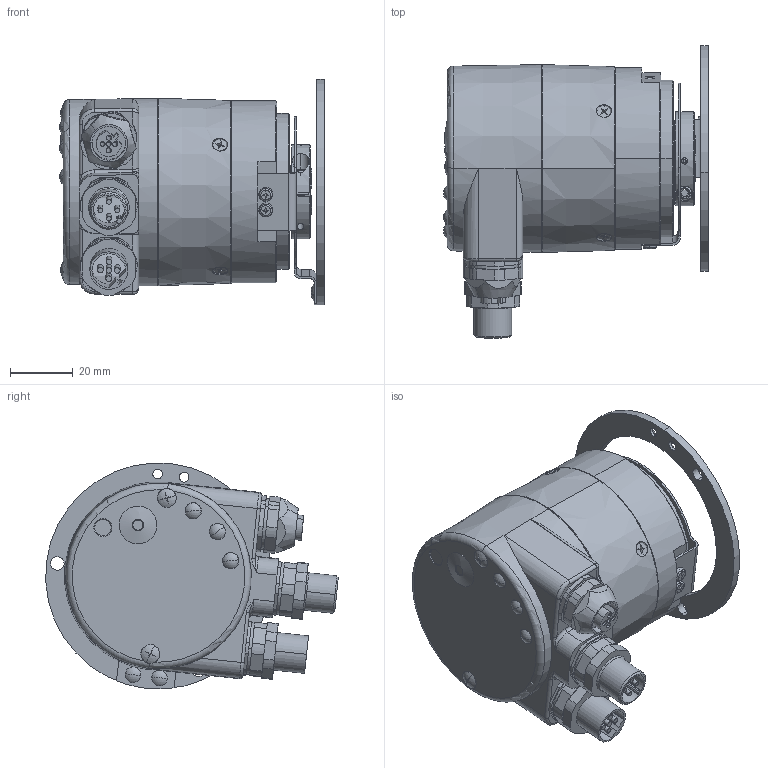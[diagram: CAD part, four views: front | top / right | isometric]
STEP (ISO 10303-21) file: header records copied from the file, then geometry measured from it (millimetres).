
FILE_DESCRIPTION (( 'STEP AP214' ), '1' );
FILE_NAME ('5878.3432.XXXX.STEP', '2008-06-03T07:25:31', ( 'admin' ), ( 'Fritz Kübler GmbH' ), 'SwSTEP 2.0', 'SolidWorks 2007', '' );
FILE_SCHEMA (( 'AUTOMOTIVE_DESIGN' ));
Length unit declared in the file: millimetre
Products named in the file (1): 5878.3432.XXXX
Bounding box: 84.4 x 93.21 x 71.93 mm (x, y, z)
Surface area: 36377.5 mm2 (no closed solid volume)
Topology: 0 solids, 38 shells, 587 faces, 1629 edges, 1074 vertices
Faces by surface type: plane 259, cylinder 214, cone 74, torus 17, sphere 15, bspline 8
Entity records: 26091 total; most frequent: CARTESIAN_POINT 4372, DIRECTION 3369, ORIENTED_EDGE 2903, EDGE_CURVE 1624, AXIS2_PLACEMENT_3D 1251, VERTEX_POINT 1074, VECTOR 867, LINE 867
